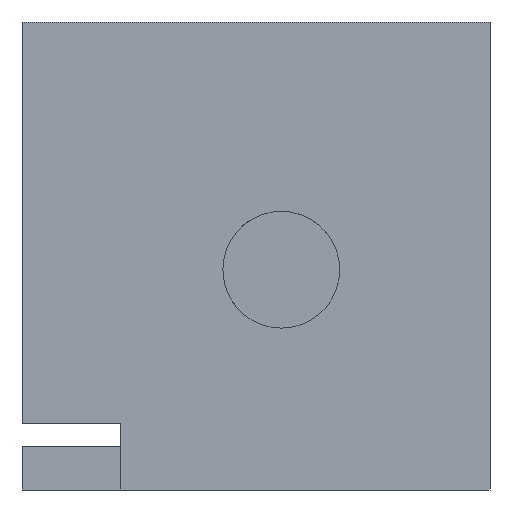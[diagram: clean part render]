
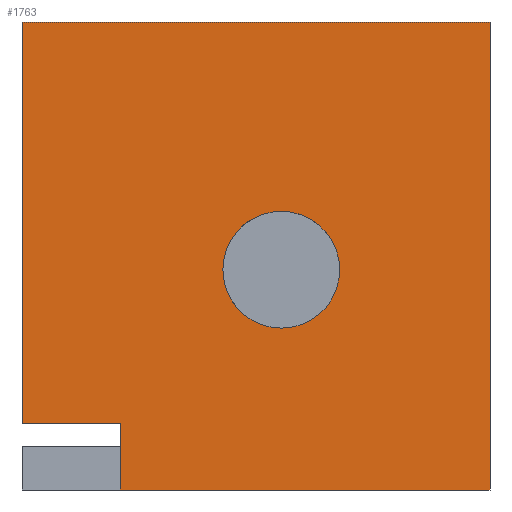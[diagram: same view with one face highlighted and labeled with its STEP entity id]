
A CAD part, left-side view. The second image highlights one B-rep face of the part: STEP entity #1763.
In plain terms, the highlighted planar face has unit normal (-1, 0, 0).
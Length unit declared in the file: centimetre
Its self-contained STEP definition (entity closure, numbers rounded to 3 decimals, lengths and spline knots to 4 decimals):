
#10 = AXIS2_PLACEMENT_3D ( 'NONE', #2343, #1962, #309 ) ;
#75 = ORIENTED_EDGE ( 'NONE', *, *, #2029, .T. ) ;
#80 = ORIENTED_EDGE ( 'NONE', *, *, #1464, .F. ) ;
#125 = DIRECTION ( 'NONE',  ( 0., -1., 0. ) ) ;
#142 = VECTOR ( 'NONE', #1638, 100. ) ;
#150 = LINE ( 'NONE', #2203, #142 ) ;
#152 = DIRECTION ( 'NONE',  ( 0., 0., -1. ) ) ;
#210 = VECTOR ( 'NONE', #125, 100. ) ;
#256 = EDGE_CURVE ( 'NONE', #1196, #2021, #2330, .T. ) ;
#271 = EDGE_CURVE ( 'NONE', #1196, #1233, #1034, .T. ) ;
#286 = EDGE_CURVE ( 'NONE', #571, #2380, #976, .T. ) ;
#288 = VECTOR ( 'NONE', #1865, 100. ) ;
#304 = CARTESIAN_POINT ( 'NONE',  ( 0., 0., 1000. ) ) ;
#309 = DIRECTION ( 'NONE',  ( 0., 0., 1. ) ) ;
#327 = CARTESIAN_POINT ( 'NONE',  ( 0., 0., 0. ) ) ;
#333 = ORIENTED_EDGE ( 'NONE', *, *, #941, .F. ) ;
#340 = CARTESIAN_POINT ( 'NONE',  ( 0., 790.379, 142.7315 ) ) ;
#364 = VERTEX_POINT ( 'NONE', #1851 ) ;
#385 = DIRECTION ( 'NONE',  ( 1., 0., 0. ) ) ;
#468 = ORIENTED_EDGE ( 'NONE', *, *, #286, .F. ) ;
#478 = DIRECTION ( 'NONE',  ( 0., 0., -1. ) ) ;
#524 = DIRECTION ( 'NONE',  ( 0., 0., -1. ) ) ;
#553 = CARTESIAN_POINT ( 'NONE',  ( 0., 445.9425, 345.8314 ) ) ;
#556 = VECTOR ( 'NONE', #2383, 100. ) ;
#558 = ORIENTED_EDGE ( 'NONE', *, *, #1952, .F. ) ;
#561 = AXIS2_PLACEMENT_3D ( 'NONE', #888, #385, #524 ) ;
#571 = VERTEX_POINT ( 'NONE', #553 ) ;
#630 = DIRECTION ( 'NONE',  ( -1., 0., 0. ) ) ;
#671 = LINE ( 'NONE', #1411, #210 ) ;
#687 = ORIENTED_EDGE ( 'NONE', *, *, #271, .F. ) ;
#744 = EDGE_LOOP ( 'NONE', ( #1585, #80, #558, #75, #983, #687 ) ) ;
#842 = VERTEX_POINT ( 'NONE', #327 ) ;
#888 = CARTESIAN_POINT ( 'NONE',  ( 0., 1000., 1000. ) ) ;
#929 = FACE_BOUND ( 'NONE', #1747, .T. ) ;
#941 = EDGE_CURVE ( 'NONE', #2380, #571, #945, .T. ) ;
#945 = CIRCLE ( 'NONE', #1568, 124.9065 ) ;
#976 = CIRCLE ( 'NONE', #10, 124.9065 ) ;
#983 = ORIENTED_EDGE ( 'NONE', *, *, #1746, .F. ) ;
#1034 = LINE ( 'NONE', #1599, #556 ) ;
#1196 = VERTEX_POINT ( 'NONE', #1257 ) ;
#1233 = VERTEX_POINT ( 'NONE', #2261 ) ;
#1257 = CARTESIAN_POINT ( 'NONE',  ( 0., 1000., 1000. ) ) ;
#1410 = DIRECTION ( 'NONE',  ( 0., 0., 1. ) ) ;
#1411 = CARTESIAN_POINT ( 'NONE',  ( 0., 1000., 0. ) ) ;
#1464 = EDGE_CURVE ( 'NONE', #1534, #2021, #150, .T. ) ;
#1475 = CARTESIAN_POINT ( 'NONE',  ( 0., 445.9425, 595.6444 ) ) ;
#1489 = LINE ( 'NONE', #2051, #288 ) ;
#1527 = VECTOR ( 'NONE', #478, 100. ) ;
#1534 = VERTEX_POINT ( 'NONE', #340 ) ;
#1568 = AXIS2_PLACEMENT_3D ( 'NONE', #1594, #630, #1410 ) ;
#1585 = ORIENTED_EDGE ( 'NONE', *, *, #256, .T. ) ;
#1594 = CARTESIAN_POINT ( 'NONE',  ( 0., 445.9425, 470.7379 ) ) ;
#1599 = CARTESIAN_POINT ( 'NONE',  ( 0., 1000., 1000. ) ) ;
#1612 = VECTOR ( 'NONE', #152, 100. ) ;
#1638 = DIRECTION ( 'NONE',  ( 0., 1., 0. ) ) ;
#1746 = EDGE_CURVE ( 'NONE', #1233, #842, #1933, .T. ) ;
#1747 = EDGE_LOOP ( 'NONE', ( #333, #468 ) ) ;
#1763 = ADVANCED_FACE ( 'NONE', ( #929, #2009 ), #2369, .F. ) ;
#1816 = CARTESIAN_POINT ( 'NONE',  ( 0., 1000., 142.7315 ) ) ;
#1851 = CARTESIAN_POINT ( 'NONE',  ( 0., 790.379, 0. ) ) ;
#1865 = DIRECTION ( 'NONE',  ( 0., 0., 1. ) ) ;
#1933 = LINE ( 'NONE', #304, #1612 ) ;
#1952 = EDGE_CURVE ( 'NONE', #364, #1534, #1489, .T. ) ;
#1962 = DIRECTION ( 'NONE',  ( -1., 0., 0. ) ) ;
#2009 = FACE_OUTER_BOUND ( 'NONE', #744, .T. ) ;
#2021 = VERTEX_POINT ( 'NONE', #1816 ) ;
#2029 = EDGE_CURVE ( 'NONE', #364, #842, #671, .T. ) ;
#2051 = CARTESIAN_POINT ( 'NONE',  ( 0., 790.379, 0. ) ) ;
#2179 = CARTESIAN_POINT ( 'NONE',  ( 0., 1000., 1000. ) ) ;
#2203 = CARTESIAN_POINT ( 'NONE',  ( 0., 790.379, 142.7315 ) ) ;
#2261 = CARTESIAN_POINT ( 'NONE',  ( 0., 0., 1000. ) ) ;
#2330 = LINE ( 'NONE', #2179, #1527 ) ;
#2343 = CARTESIAN_POINT ( 'NONE',  ( 0., 445.9425, 470.7379 ) ) ;
#2369 = PLANE ( 'NONE',  #561 ) ;
#2380 = VERTEX_POINT ( 'NONE', #1475 ) ;
#2383 = DIRECTION ( 'NONE',  ( 0., -1., 0. ) ) ;
